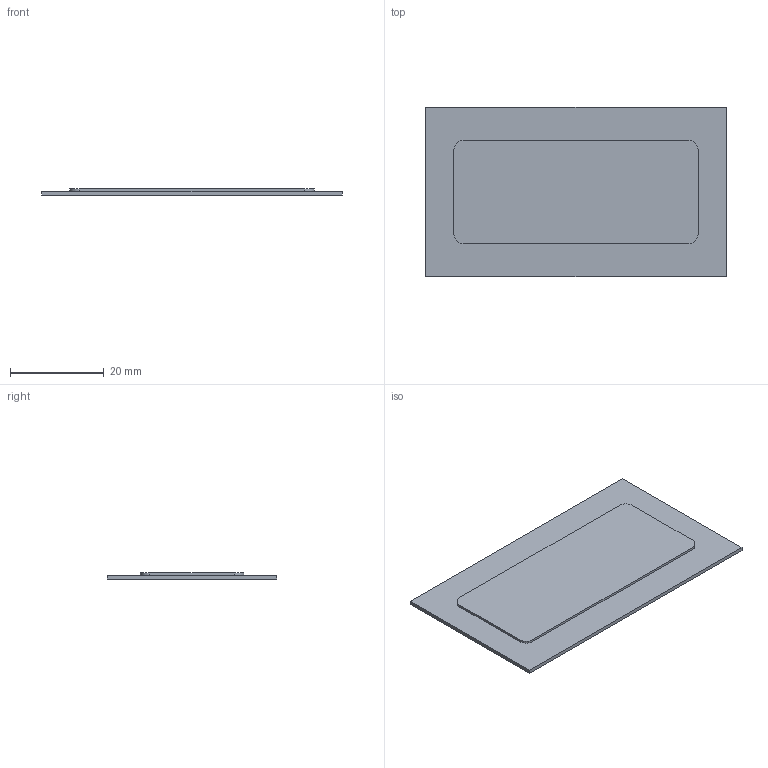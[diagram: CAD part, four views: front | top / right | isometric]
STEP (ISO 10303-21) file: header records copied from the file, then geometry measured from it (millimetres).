
FILE_DESCRIPTION(('Open CASCADE Model'),'2;1');
FILE_NAME('Open CASCADE Shape Model','2026-09-06T11:45:48',('Author'),( 'Open CASCADE'),'Open CASCADE STEP processor 7.7','Open CASCADE 7.7' ,'Unknown');
FILE_SCHEMA(('AUTOMOTIVE_DESIGN { 1 0 10303 214 1 1 1 1 }'));
Products named in the file (1): Open CASCADE STEP translator 7.7 17
Bounding box: 64 x 36 x 1.3 mm (x, y, z)
Volume: 2379 mm3; surface area: 4947.2 mm2
Topology: 1 solids, 1 shells, 10098 faces, 30156 edges, 20104 vertices
Faces by surface type: plane 10094, cylinder 4
Entity records: 724216 total; most frequent: CARTESIAN_POINT 120699, DIRECTION 110656, LINE 90436, VECTOR 90436, ORIENTED_EDGE 60312, PCURVE 60312, DEFINITIONAL_REPRESENTATION 60312, EDGE_CURVE 30156
